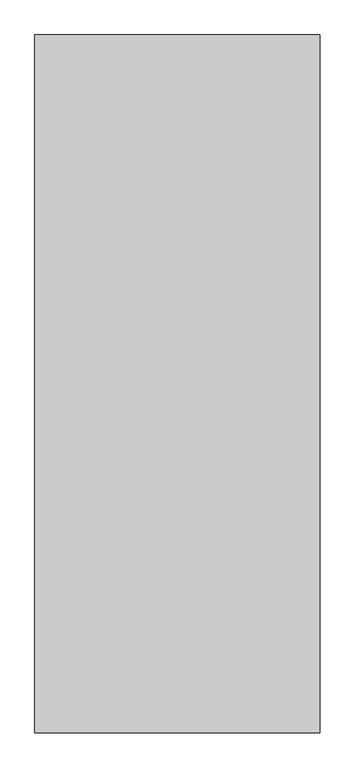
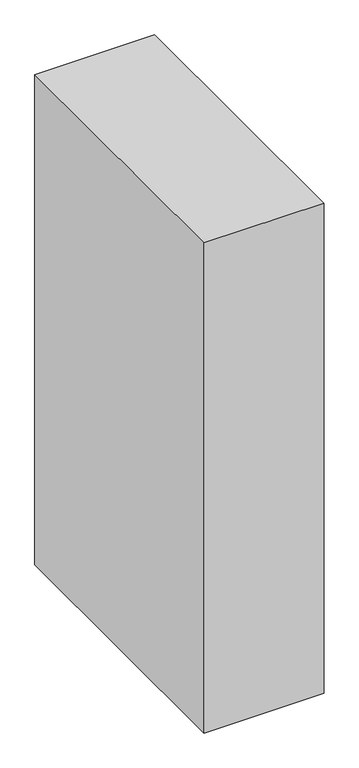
"""IFC4 building model written with IfcOpenShell, lengths in millimetres: proxy geometry."""

from ifc_helpers import new_model, si_unit, frame, origin, place, context, project, spatial, polyline, outline, extrude, source, transform, mapped, element, save


def generic_models_a9a08aba(model_context):
    return source(origin(), model_context, "Body", "SweptSolid", [
        extrude(outline(polyline([(-109017.1304765, -19100.3951677), (-109017.1304765, -17600.3951677), (-108404.1304765, -17600.3951677), (-108404.1304765, -19100.3951677), (-109017.1304765, -19100.3951677)])), frame((0.0, 0.0, -150.0), z_axis=(0.0, 0.0, 1.0), x_axis=(1.0, 0.0, 0.0)), (0.0, 0.0, 1.0), 2650.0),
    ])


if __name__ == "__main__":
    model = new_model("IFC4")
    model_context = context("Model", 3, world=origin())
    ifc_project = project(units=[si_unit("LENGTHUNIT", "METRE", prefix="MILLI")], contexts=[model_context])
    site = spatial("IfcSite", under=ifc_project)
    building = spatial("IfcBuilding", under=site)
    placement = place(None, origin())
    generic_models_shape = generic_models_a9a08aba(model_context)
    element("IfcBuildingElementProxy", 1, Name="Generic Models", at=placement, inside=building, context=model_context, shape_type="MappedRepresentation", body=[
        mapped(generic_models_shape, transform((0.0, 0.0, 0.0), x_axis=(1.0, 0.0, 0.0), y_axis=(0.0, 1.0, 0.0), z_axis=(0.0, 0.0, 1.0))),
    ])
    save(model, "model.ifc")
